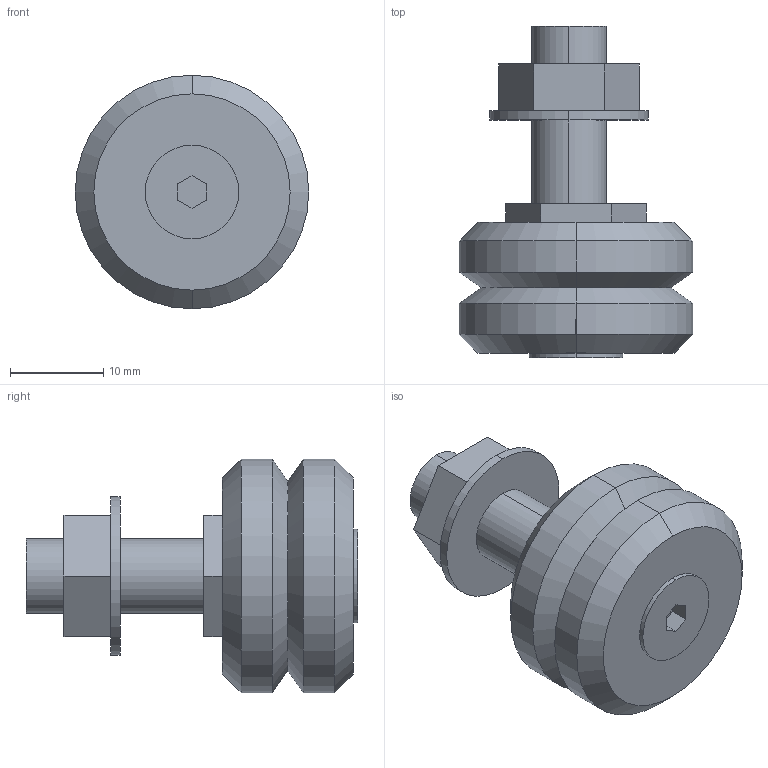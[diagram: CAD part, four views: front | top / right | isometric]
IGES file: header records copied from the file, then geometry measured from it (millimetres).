
Start section: 3D InterOp IGES (v. 2019 1.0.2), Spatial Corp. Copyright (c) 1999-2017.
Global section: file name: SS LJ25 E.igs; native system: Spatial Corp.; preprocessor: 3D InterOp GENERIC/IGES 3.0; author: Noname; organization: Noname; date: 20220628.114759; units: millimetre
Bounding box: 25 x 35.5 x 25 mm (x, y, z)
Surface area: 3153.8 mm2 (no closed solid volume)
Topology: 0 solids, 0 shells, 54 faces, 244 edges, 244 vertices
Faces by surface type: extrusion 34, revolution 20
